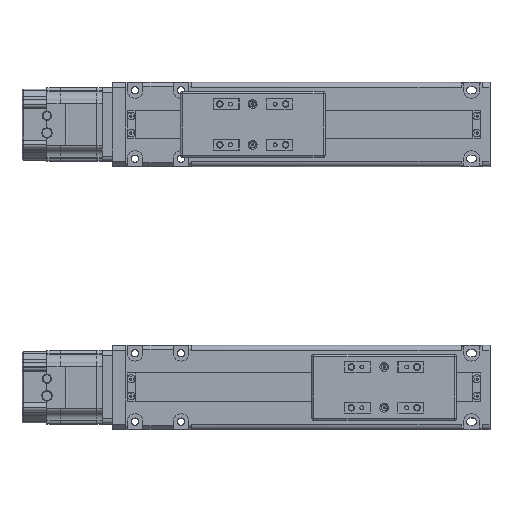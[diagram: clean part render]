
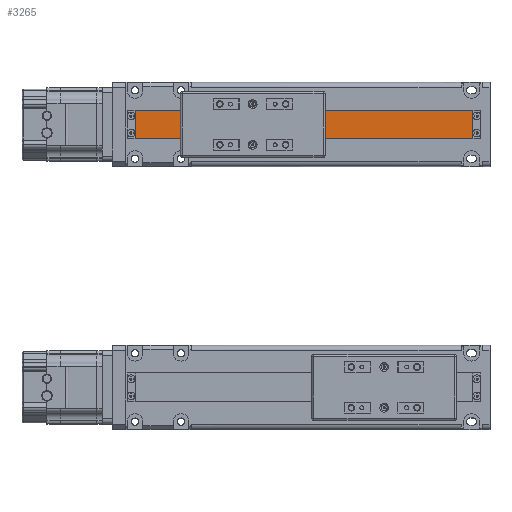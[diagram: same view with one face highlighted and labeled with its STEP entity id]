
A CAD part, top view. The second image highlights one B-rep face of the part: STEP entity #3265.
In plain terms, the highlighted planar face has unit normal (0, 0, 1).
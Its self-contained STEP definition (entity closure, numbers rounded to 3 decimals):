
#3265=ADVANCED_FACE('',(#7450),#7451,.T.);
#7450=FACE_OUTER_BOUND('',#13724,.T.);
#7451=PLANE('',#13725);
#13724=EDGE_LOOP('',(#24182,#24183,#24184,#24185));
#13725=AXIS2_PLACEMENT_3D('',#24186,#24187,#24188);
#24182=ORIENTED_EDGE('',*,*,#36338,.T.);
#24183=ORIENTED_EDGE('',*,*,#36339,.T.);
#24184=ORIENTED_EDGE('',*,*,#32753,.T.);
#24185=ORIENTED_EDGE('',*,*,#36340,.T.);
#24186=CARTESIAN_POINT('',(784.528,108.8,6.05));
#24187=DIRECTION('',(-0.0,0.,1.0));
#24188=DIRECTION('',(1.0,0.0,0.0));
#32753=EDGE_CURVE('',#38704,#38705,#38706,.T.);
#36338=EDGE_CURVE('',#44544,#44545,#44546,.T.);
#36339=EDGE_CURVE('',#44545,#38704,#44547,.T.);
#36340=EDGE_CURVE('',#38705,#44544,#44548,.T.);
#38704=VERTEX_POINT('',#47380);
#38705=VERTEX_POINT('',#47381);
#38706=LINE('',#47382,#47383);
#44544=VERTEX_POINT('',#55733);
#44545=VERTEX_POINT('',#55734);
#44546=LINE('',#55735,#55736);
#44547=LINE('',#55737,#55738);
#44548=LINE('',#55739,#55740);
#47380=CARTESIAN_POINT('',(749.528,97.8,6.05));
#47381=CARTESIAN_POINT('',(1006.528,97.8,6.05));
#47382=CARTESIAN_POINT('',(744.528,97.8,6.05));
#47383=VECTOR('',#59690,1000.0);
#55733=CARTESIAN_POINT('',(1006.528,119.8,6.05));
#55734=CARTESIAN_POINT('',(749.528,119.8,6.05));
#55735=CARTESIAN_POINT('',(1012.528,119.8,6.05));
#55736=VECTOR('',#63929,1000.0);
#55737=CARTESIAN_POINT('',(749.528,108.8,6.05));
#55738=VECTOR('',#63930,1000.0);
#55739=CARTESIAN_POINT('',(1006.528,108.8,6.05));
#55740=VECTOR('',#63931,1000.0);
#59690=DIRECTION('',(1.0,0.0,0.0));
#63929=DIRECTION('',(-1.0,0.0,0.0));
#63930=DIRECTION('',(0.0,-1.0,0.));
#63931=DIRECTION('',(0.0,1.0,0.));
